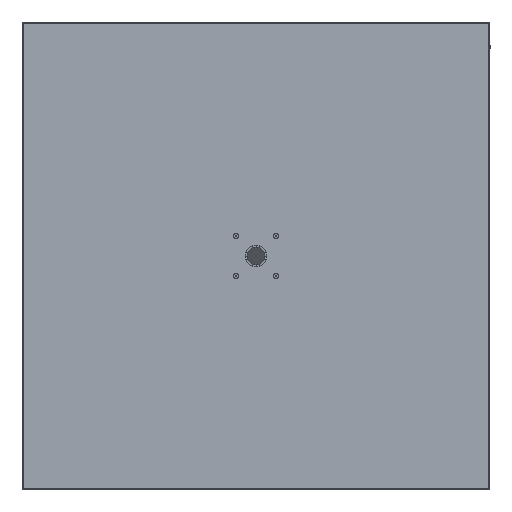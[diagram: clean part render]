
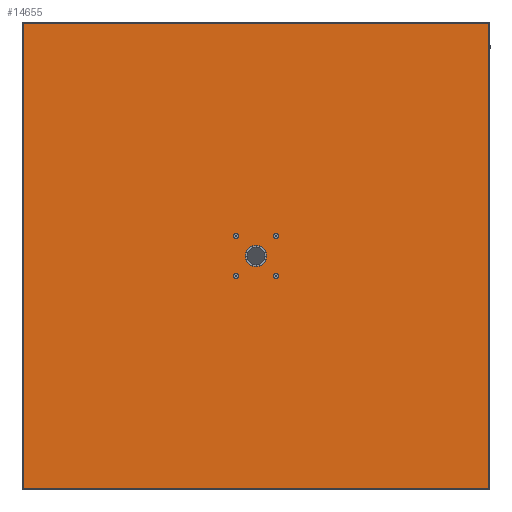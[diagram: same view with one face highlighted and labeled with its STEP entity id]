
A CAD part, front view. The second image highlights one B-rep face of the part: STEP entity #14655.
In plain terms, the highlighted planar face has unit normal (0, -1, 0).
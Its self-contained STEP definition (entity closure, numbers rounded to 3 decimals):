
#341 = EDGE_LOOP ( 'NONE', ( #27227 ) ) ;
#480 = LINE ( 'NONE', #6272, #27374 ) ;
#597 = LINE ( 'NONE', #21568, #20554 ) ;
#646 = DIRECTION ( 'NONE',  ( 0., 1., 0. ) ) ;
#789 = CARTESIAN_POINT ( 'NONE',  ( -350., -350., 347.999 ) ) ;
#1523 = EDGE_CURVE ( 'NONE', #12848, #12848, #27565, .T. ) ;
#1579 = DIRECTION ( 'NONE',  ( 0., 1., 0. ) ) ;
#1879 = CARTESIAN_POINT ( 'NONE',  ( 348., -350., 347.999 ) ) ;
#2152 = LINE ( 'NONE', #29953, #21265 ) ;
#2348 = EDGE_CURVE ( 'NONE', #9587, #9587, #22188, .T. ) ;
#2628 = CARTESIAN_POINT ( 'NONE',  ( 0., -350., 0. ) ) ;
#2866 = VERTEX_POINT ( 'NONE', #12455 ) ;
#2991 = VECTOR ( 'NONE', #27358, 1000. ) ;
#3086 = EDGE_CURVE ( 'NONE', #14946, #2866, #26243, .T. ) ;
#3187 = EDGE_CURVE ( 'NONE', #2866, #30833, #8295, .T. ) ;
#3221 = DIRECTION ( 'NONE',  ( 0., 1., 0. ) ) ;
#3424 = VECTOR ( 'NONE', #22266, 1000. ) ;
#3518 = VECTOR ( 'NONE', #13749, 1000. ) ;
#3906 = ORIENTED_EDGE ( 'NONE', *, *, #3086, .F. ) ;
#4137 = DIRECTION ( 'NONE',  ( 1., 0., 0. ) ) ;
#4848 = CARTESIAN_POINT ( 'NONE',  ( -350., -350., 350. ) ) ;
#4899 = CARTESIAN_POINT ( 'NONE',  ( 348., -350., -348. ) ) ;
#4959 = VECTOR ( 'NONE', #4137, 1000. ) ;
#4995 = CARTESIAN_POINT ( 'NONE',  ( 348., -350., -348. ) ) ;
#4997 = FACE_OUTER_BOUND ( 'NONE', #26837, .T. ) ;
#5300 = ORIENTED_EDGE ( 'NONE', *, *, #13190, .F. ) ;
#5346 = CARTESIAN_POINT ( 'NONE',  ( -30., -350., 30. ) ) ;
#5644 = CARTESIAN_POINT ( 'NONE',  ( -350.059, -350., 348. ) ) ;
#5960 = DIRECTION ( 'NONE',  ( 0., 0., -1. ) ) ;
#6272 = CARTESIAN_POINT ( 'NONE',  ( 350.059, -350., -348. ) ) ;
#6514 = CARTESIAN_POINT ( 'NONE',  ( -350., -350., 348. ) ) ;
#6605 = VERTEX_POINT ( 'NONE', #9080 ) ;
#6846 = EDGE_CURVE ( 'NONE', #11660, #18037, #7268, .T. ) ;
#7108 = CARTESIAN_POINT ( 'NONE',  ( 30., -350., -29.835 ) ) ;
#7268 = LINE ( 'NONE', #11165, #13337 ) ;
#7369 = VECTOR ( 'NONE', #31155, 1000. ) ;
#7479 = DIRECTION ( 'NONE',  ( 0., 0., 1. ) ) ;
#7570 = ORIENTED_EDGE ( 'NONE', *, *, #15009, .F. ) ;
#7741 = ORIENTED_EDGE ( 'NONE', *, *, #9412, .T. ) ;
#7993 = DIRECTION ( 'NONE',  ( 0., 0., 1. ) ) ;
#8295 = LINE ( 'NONE', #8686, #14378 ) ;
#8428 = CIRCLE ( 'NONE', #21036, 0.165 ) ;
#8438 = CARTESIAN_POINT ( 'NONE',  ( -347.999, -350., 350. ) ) ;
#8662 = EDGE_CURVE ( 'NONE', #14946, #12080, #13434, .T. ) ;
#8686 = CARTESIAN_POINT ( 'NONE',  ( 348., -350., 350. ) ) ;
#9078 = CARTESIAN_POINT ( 'NONE',  ( -30., -350., -29.835 ) ) ;
#9080 = CARTESIAN_POINT ( 'NONE',  ( -30., -350., 30.165 ) ) ;
#9412 = EDGE_CURVE ( 'NONE', #17751, #17751, #23235, .T. ) ;
#9587 = VERTEX_POINT ( 'NONE', #9078 ) ;
#10304 = CARTESIAN_POINT ( 'NONE',  ( -348., -350., -348. ) ) ;
#10824 = ORIENTED_EDGE ( 'NONE', *, *, #2348, .T. ) ;
#11147 = LINE ( 'NONE', #19667, #3424 ) ;
#11165 = CARTESIAN_POINT ( 'NONE',  ( -350., -350., -348. ) ) ;
#11212 = CARTESIAN_POINT ( 'NONE',  ( -348., -350., 347.999 ) ) ;
#11214 = ORIENTED_EDGE ( 'NONE', *, *, #15106, .T. ) ;
#11280 = EDGE_LOOP ( 'NONE', ( #30841 ) ) ;
#11660 = VERTEX_POINT ( 'NONE', #17216 ) ;
#11899 = FACE_BOUND ( 'NONE', #341, .T. ) ;
#12080 = VERTEX_POINT ( 'NONE', #27079 ) ;
#12455 = CARTESIAN_POINT ( 'NONE',  ( 348., -350., 348. ) ) ;
#12515 = VERTEX_POINT ( 'NONE', #28996 ) ;
#12555 = EDGE_CURVE ( 'NONE', #29070, #17377, #597, .T. ) ;
#12576 = PLANE ( 'NONE',  #18349 ) ;
#12730 = FACE_BOUND ( 'NONE', #28852, .T. ) ;
#12848 = VERTEX_POINT ( 'NONE', #16713 ) ;
#13190 = EDGE_CURVE ( 'NONE', #18037, #23473, #13965, .T. ) ;
#13245 = AXIS2_PLACEMENT_3D ( 'NONE', #18842, #3221, #21423 ) ;
#13337 = VECTOR ( 'NONE', #17235, 1000. ) ;
#13434 = LINE ( 'NONE', #8438, #7369 ) ;
#13671 = DIRECTION ( 'NONE',  ( 1., 0., 0. ) ) ;
#13710 = VERTEX_POINT ( 'NONE', #33128 ) ;
#13749 = DIRECTION ( 'NONE',  ( -1., 0., 0. ) ) ;
#13965 = LINE ( 'NONE', #17278, #27024 ) ;
#14378 = VECTOR ( 'NONE', #29518, 1000. ) ;
#14655 = ADVANCED_FACE ( 'NONE', ( #12730, #25787, #19663, #11899, #32756, #4997 ), #12576, .F. ) ;
#14819 = CIRCLE ( 'NONE', #13245, 0.165 ) ;
#14946 = VERTEX_POINT ( 'NONE', #26797 ) ;
#15009 = EDGE_CURVE ( 'NONE', #13710, #12515, #480, .T. ) ;
#15106 = EDGE_CURVE ( 'NONE', #15729, #17377, #26556, .T. ) ;
#15377 = DIRECTION ( 'NONE',  ( 0., 0., 1. ) ) ;
#15509 = CARTESIAN_POINT ( 'NONE',  ( 30., -350., 30. ) ) ;
#15670 = CARTESIAN_POINT ( 'NONE',  ( 0., -350., 16. ) ) ;
#15729 = VERTEX_POINT ( 'NONE', #4995 ) ;
#15760 = ORIENTED_EDGE ( 'NONE', *, *, #12555, .F. ) ;
#16446 = ORIENTED_EDGE ( 'NONE', *, *, #1523, .T. ) ;
#16713 = CARTESIAN_POINT ( 'NONE',  ( 30., -350., 30.165 ) ) ;
#16960 = DIRECTION ( 'NONE',  ( 0., 0., 1. ) ) ;
#17114 = EDGE_LOOP ( 'NONE', ( #7741 ) ) ;
#17216 = CARTESIAN_POINT ( 'NONE',  ( -347.999, -350., -348. ) ) ;
#17235 = DIRECTION ( 'NONE',  ( -1., 0., 0. ) ) ;
#17278 = CARTESIAN_POINT ( 'NONE',  ( -348., -350., -348. ) ) ;
#17377 = VERTEX_POINT ( 'NONE', #4899 ) ;
#17391 = DIRECTION ( 'NONE',  ( 0., 0., 1. ) ) ;
#17680 = VECTOR ( 'NONE', #13671, 1000. ) ;
#17751 = VERTEX_POINT ( 'NONE', #15670 ) ;
#18037 = VERTEX_POINT ( 'NONE', #10304 ) ;
#18349 = AXIS2_PLACEMENT_3D ( 'NONE', #4848, #23047, #7479 ) ;
#18800 = AXIS2_PLACEMENT_3D ( 'NONE', #15509, #21792, #15377 ) ;
#18842 = CARTESIAN_POINT ( 'NONE',  ( 30., -350., -30. ) ) ;
#19663 = FACE_BOUND ( 'NONE', #21248, .T. ) ;
#19667 = CARTESIAN_POINT ( 'NONE',  ( 348., -350., 350. ) ) ;
#19699 = EDGE_CURVE ( 'NONE', #30325, #30325, #14819, .T. ) ;
#19833 = EDGE_CURVE ( 'NONE', #30833, #29070, #26241, .T. ) ;
#19850 = ORIENTED_EDGE ( 'NONE', *, *, #19833, .F. ) ;
#20554 = VECTOR ( 'NONE', #5960, 1000. ) ;
#21036 = AXIS2_PLACEMENT_3D ( 'NONE', #5346, #23573, #7993 ) ;
#21056 = ORIENTED_EDGE ( 'NONE', *, *, #8662, .T. ) ;
#21248 = EDGE_LOOP ( 'NONE', ( #16446 ) ) ;
#21265 = VECTOR ( 'NONE', #16960, 1000. ) ;
#21423 = DIRECTION ( 'NONE',  ( 0., 0., 1. ) ) ;
#21568 = CARTESIAN_POINT ( 'NONE',  ( 348., -350., 349.2 ) ) ;
#21586 = ORIENTED_EDGE ( 'NONE', *, *, #27841, .T. ) ;
#21682 = DIRECTION ( 'NONE',  ( 0., 0., 1. ) ) ;
#21792 = DIRECTION ( 'NONE',  ( 0., 1., 0. ) ) ;
#21808 = ORIENTED_EDGE ( 'NONE', *, *, #30260, .F. ) ;
#21871 = DIRECTION ( 'NONE',  ( -1., 0., 0. ) ) ;
#22188 = CIRCLE ( 'NONE', #26293, 0.165 ) ;
#22266 = DIRECTION ( 'NONE',  ( 0., 0., 1. ) ) ;
#23046 = CARTESIAN_POINT ( 'NONE',  ( -30., -350., -30. ) ) ;
#23047 = DIRECTION ( 'NONE',  ( 0., 1., 0. ) ) ;
#23070 = AXIS2_PLACEMENT_3D ( 'NONE', #2628, #1579, #21682 ) ;
#23166 = DIRECTION ( 'NONE',  ( 0., 0., 1. ) ) ;
#23235 = CIRCLE ( 'NONE', #23070, 16. ) ;
#23473 = VERTEX_POINT ( 'NONE', #11212 ) ;
#23483 = LINE ( 'NONE', #789, #3518 ) ;
#23573 = DIRECTION ( 'NONE',  ( 0., 1., 0. ) ) ;
#25595 = EDGE_CURVE ( 'NONE', #13710, #15729, #11147, .T. ) ;
#25787 = FACE_BOUND ( 'NONE', #11280, .T. ) ;
#26241 = LINE ( 'NONE', #6514, #2991 ) ;
#26243 = LINE ( 'NONE', #5644, #17680 ) ;
#26293 = AXIS2_PLACEMENT_3D ( 'NONE', #23046, #646, #23166 ) ;
#26556 = LINE ( 'NONE', #30112, #4959 ) ;
#26797 = CARTESIAN_POINT ( 'NONE',  ( -347.999, -350., 348. ) ) ;
#26837 = EDGE_LOOP ( 'NONE', ( #21056, #21586, #5300, #27997, #21808, #7570, #32195, #11214, #15760, #19850, #28578, #3906 ) ) ;
#27024 = VECTOR ( 'NONE', #17391, 1000. ) ;
#27079 = CARTESIAN_POINT ( 'NONE',  ( -347.999, -350., 347.999 ) ) ;
#27227 = ORIENTED_EDGE ( 'NONE', *, *, #19699, .T. ) ;
#27358 = DIRECTION ( 'NONE',  ( 1., 0., 0. ) ) ;
#27374 = VECTOR ( 'NONE', #21871, 1000. ) ;
#27565 = CIRCLE ( 'NONE', #18800, 0.165 ) ;
#27686 = EDGE_CURVE ( 'NONE', #6605, #6605, #8428, .T. ) ;
#27841 = EDGE_CURVE ( 'NONE', #12080, #23473, #23483, .T. ) ;
#27997 = ORIENTED_EDGE ( 'NONE', *, *, #6846, .F. ) ;
#28578 = ORIENTED_EDGE ( 'NONE', *, *, #3187, .F. ) ;
#28852 = EDGE_LOOP ( 'NONE', ( #10824 ) ) ;
#28996 = CARTESIAN_POINT ( 'NONE',  ( -347.999, -350., -348. ) ) ;
#29070 = VERTEX_POINT ( 'NONE', #1879 ) ;
#29518 = DIRECTION ( 'NONE',  ( 0., 0., -1. ) ) ;
#29953 = CARTESIAN_POINT ( 'NONE',  ( -347.999, -350., 350. ) ) ;
#30112 = CARTESIAN_POINT ( 'NONE',  ( -350., -350., -348. ) ) ;
#30260 = EDGE_CURVE ( 'NONE', #12515, #11660, #2152, .T. ) ;
#30325 = VERTEX_POINT ( 'NONE', #7108 ) ;
#30833 = VERTEX_POINT ( 'NONE', #32433 ) ;
#30841 = ORIENTED_EDGE ( 'NONE', *, *, #27686, .T. ) ;
#31155 = DIRECTION ( 'NONE',  ( 0., 0., -1. ) ) ;
#32195 = ORIENTED_EDGE ( 'NONE', *, *, #25595, .T. ) ;
#32433 = CARTESIAN_POINT ( 'NONE',  ( 348., -350., 347.999 ) ) ;
#32756 = FACE_BOUND ( 'NONE', #17114, .T. ) ;
#33128 = CARTESIAN_POINT ( 'NONE',  ( 348., -350., -348. ) ) ;
